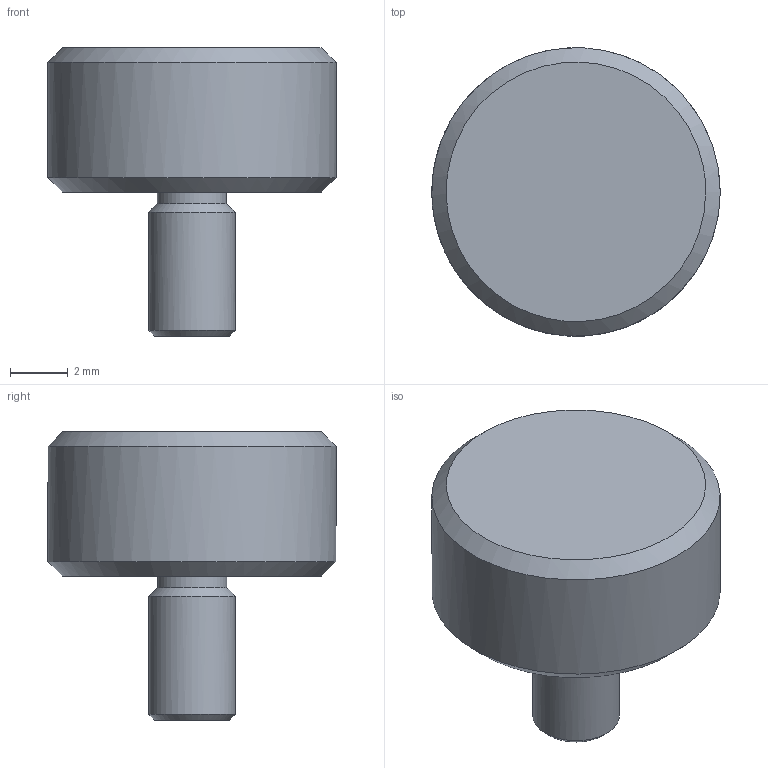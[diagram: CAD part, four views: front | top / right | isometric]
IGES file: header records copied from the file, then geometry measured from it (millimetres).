
Global section: file name: 30.51; native system: Autodesk Inventor 2014; preprocessor: unknown; author: Stefano; date: 20150518.122538; units: millimetre
Bounding box: 10 x 10 x 10 mm (x, y, z)
Volume: 419.4 mm3; surface area: 344 mm2
Topology: 1 solids, 1 shells, 10 faces, 19 edges, 12 vertices
Faces by surface type: bspline 10
